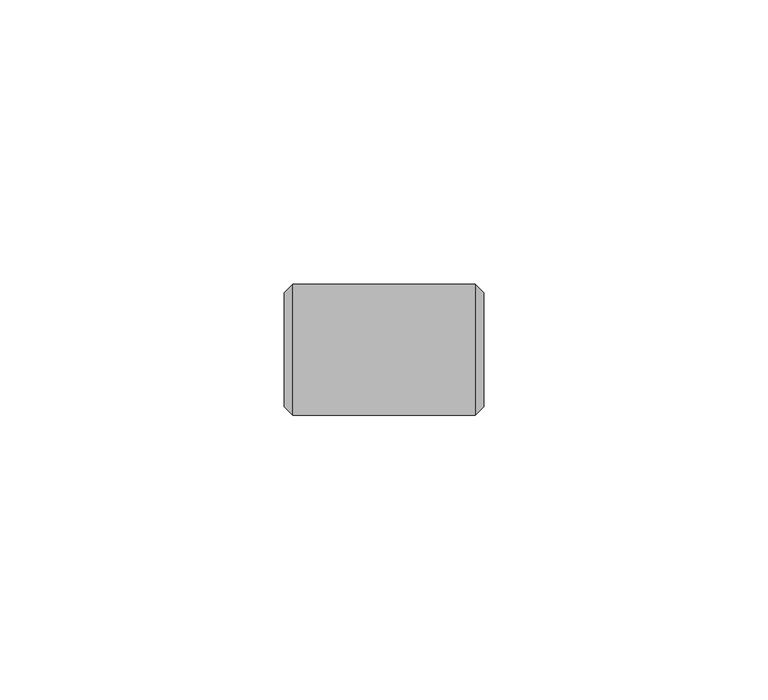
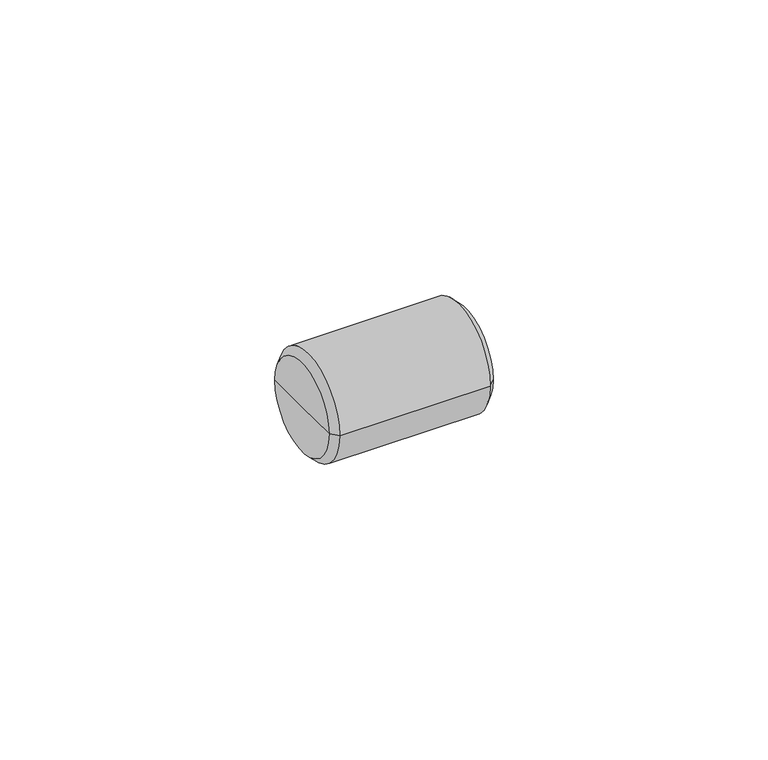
"""IFC4 building model written with IfcOpenShell, lengths in millimetres: pipe fitting geometry, KAN-therm PP mufa : KAN-therm PP mufa."""

from ifc_helpers import new_model, si_unit, frame, origin, place, context, project, spatial, polyline, circle_curve, source, transform, mapped, element, save
from ifc_brep_helpers import plane_surface, cylinder_surface, revolved_surface, advanced_brep


def pipe_fitting_fa644c43(model_context):
    return source(origin(), model_context, "Body", "AdvancedBrep", [
        advanced_brep(
        [(17.5, -10.0, 0.0), (17.5, 10.0, 0.0), (17.5, 0.0, 0.0), (-16.0, -11.5, 0.0), (-16.0, 11.5, 0.0), (16.0, 11.5, 0.0), (16.0, -11.5, 0.0), (-17.5, 0.0, 0.0), (-17.5, 10.0, 0.0), (-17.5, -10.0, 0.0)],
        [
            (0, 1, circle_curve(frame((17.5, 0.0, 0.0), z_axis=(1.0, 0.0, 0.0), x_axis=(0.0, 1.0, 0.0)), 10.0)),
            (1, 2),
            (2, 0),
            (1, 0, circle_curve(frame((17.5, 0.0, 0.0), z_axis=(1.0, 0.0, 0.0), x_axis=(0.0, 1.0, 0.0)), 10.0)),
            (3, 4, circle_curve(frame((-16.0, 0.0, 0.0), z_axis=(1.0, 0.0, 0.0), x_axis=(0.0, 1.0, 0.0)), 11.5)),
            (4, 5),
            (5, 6, circle_curve(frame((16.0, 0.0, 0.0), z_axis=(-1.0, 0.0, 0.0), x_axis=(0.0, 1.0, 0.0)), 11.5)),
            (6, 3),
            (4, 3, circle_curve(frame((-16.0, 0.0, 0.0), z_axis=(1.0, 0.0, 0.0), x_axis=(0.0, 1.0, 0.0)), 11.5)),
            (6, 5, circle_curve(frame((16.0, 0.0, 0.0), z_axis=(-1.0, 0.0, 0.0), x_axis=(0.0, 1.0, 0.0)), 11.5)),
            (7, 8),
            (8, 9, circle_curve(frame((-17.5, 0.0, 0.0), z_axis=(-1.0, 0.0, 0.0), x_axis=(0.0, 1.0, 0.0)), 10.0)),
            (9, 7),
            (9, 8, circle_curve(frame((-17.5, 0.0, 0.0), z_axis=(-1.0, 0.0, 0.0), x_axis=(0.0, 1.0, 0.0)), 10.0)),
            (5, 1),
            (0, 6),
            (8, 4),
            (3, 9),
        ],
        [
            plane_surface(frame((17.5, 0.0, 0.0), z_axis=(1.0, 0.0, 0.0), x_axis=(0.0, 1.0, 0.0))),
            cylinder_surface(frame((1331.242668, 0.0, 0.0), z_axis=(-1.0, 0.0, 0.0), x_axis=(0.0, 1.0, 0.0)), 11.5),
            plane_surface(frame((-17.5, 0.0, 0.0), z_axis=(-1.0, 0.0, 0.0), x_axis=(0.0, 1.0, 0.0))),
            revolved_surface(polyline([(17.5, 10.0, 0.0), (16.0, 11.5, 0.0)]), (1331.242668, 0.0, 0.0), (-1.0, 0.0, 0.0)),
            revolved_surface(polyline([(-16.0, 11.5, 0.0), (-17.5, 10.0, 0.0)]), (1331.242668, 0.0, 0.0), (-1.0, 0.0, 0.0)),
        ],
        [
            (0, [[1, 2, 3]]),
            (0, [[4, -3, -2]]),
            (1, [[5, 6, 7, 8]]),
            (1, [[9, -8, 10, -6]]),
            (2, [[11, 12, 13]]),
            (2, [[-13, 14, -11]]),
            (3, [[-7, 15, -1, 16]]),
            (3, [[-10, -16, -4, -15]]),
            (4, [[-12, 17, -5, 18]]),
            (4, [[-14, -18, -9, -17]]),
        ],
    ),
    ])


if __name__ == "__main__":
    model = new_model("IFC4")
    model_context = context("Model", 3, world=origin())
    ifc_project = project(units=[si_unit("LENGTHUNIT", "METRE", prefix="MILLI")], contexts=[model_context])
    site = spatial("IfcSite", under=ifc_project)
    building = spatial("IfcBuilding", under=site)
    placement = place(None, origin())
    pipe_fitting_shape = pipe_fitting_fa644c43(model_context)
    element("IfcPipeFitting", 1, ObjectType="KAN-therm PP mufa : KAN-therm PP mufa", at=placement, inside=building, context=model_context, shape_type="MappedRepresentation", body=[
        mapped(pipe_fitting_shape, transform((0.0, 0.0, 0.0), x_axis=(1.0, 0.0, 0.0), y_axis=(0.0, 1.0, 0.0), z_axis=(0.0, 0.0, 1.0))),
    ])
    save(model, "model.ifc")
